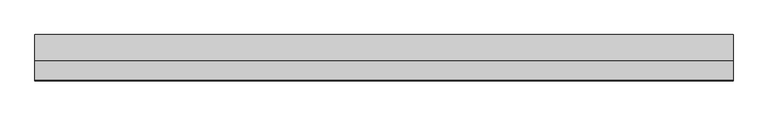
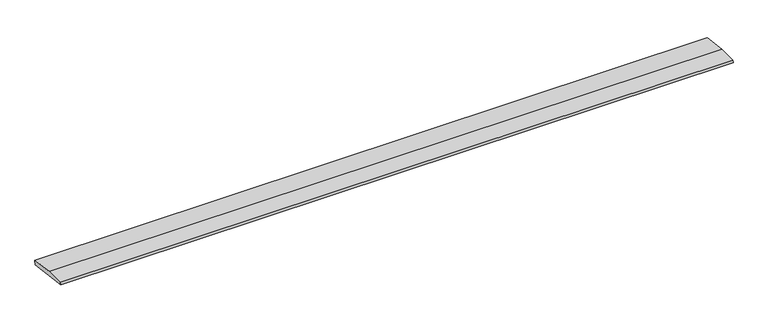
"""IFC4 building model written with IfcOpenShell, lengths in millimetres: beam geometry, weatherboad : weatherboad."""

from ifc_helpers import new_model, si_unit, frame, origin, place, context, project, spatial, polyline, outline, extrude, source, transform, mapped, element, save


def beam_f72c105a(model_context):
    return source(origin(), model_context, "Body", "SweptSolid", [
        extrude(outline(polyline([(0.0, -9.143159), (1.1226388, 0.0), (79.0749747, 0.0), (180.9387048, -12.5072934), (178.6231873, -31.3656703), (0.0, -9.143159)])), frame((-1367.7247735, 0.0, 0.0), z_axis=(1.0, 0.0, 0.0), x_axis=(0.0, 1.0, 0.0)), (0.0, 0.0, 1.0), 2735.4495469),
    ])


if __name__ == "__main__":
    model = new_model("IFC4")
    model_context = context("Model", 3, world=origin())
    ifc_project = project(units=[si_unit("LENGTHUNIT", "METRE", prefix="MILLI")], contexts=[model_context])
    site = spatial("IfcSite", under=ifc_project)
    building = spatial("IfcBuilding", under=site)
    placement = place(None, origin())
    beam_shape = beam_f72c105a(model_context)
    element("IfcBeam", 1, ObjectType="weatherboad : weatherboad", at=placement, inside=building, context=model_context, shape_type="MappedRepresentation", body=[
        mapped(beam_shape, transform((0.0, 0.0, 0.0), x_axis=(1.0, 0.0, 0.0), y_axis=(0.0, 1.0, 0.0), z_axis=(0.0, 0.0, 1.0))),
    ])
    save(model, "model.ifc")
